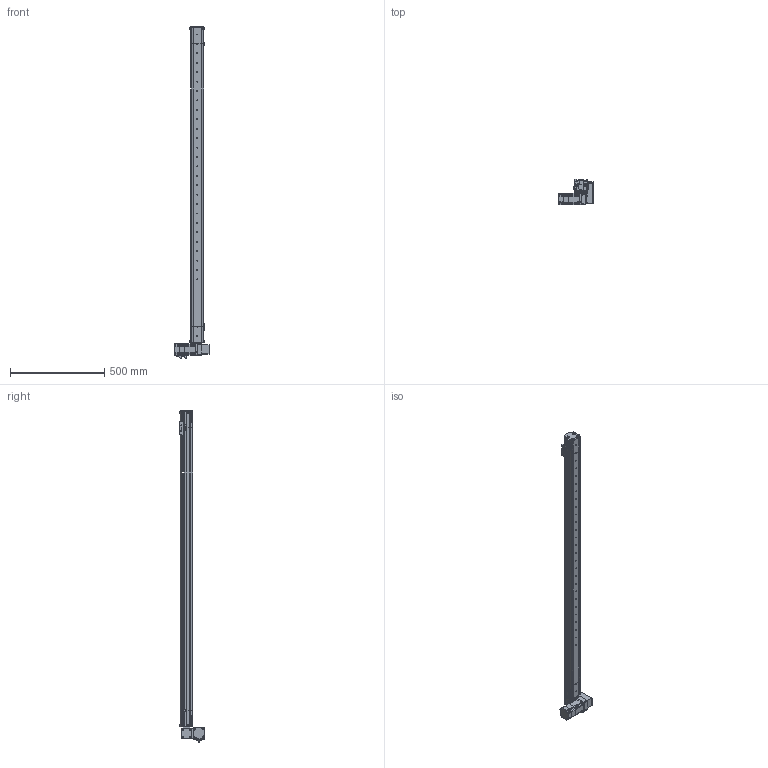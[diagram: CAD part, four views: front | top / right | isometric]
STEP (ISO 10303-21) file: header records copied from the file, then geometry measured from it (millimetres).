
FILE_DESCRIPTION (( 'STEP AP214' ), '1' );
FILE_NAME ('S07 TBN LU S1500.STEP', '2010-06-29T12:10:40', ( 'Conseil Régional Haute-Normandie' ), ( 'Conseil Régional Haute-Normandie' ), 'SwSTEP 2.0', 'SolidWorks 2010', '' );
FILE_SCHEMA (( 'AUTOMOTIVE_DESIGN' ));
Length unit declared in the file: millimetre
Products named in the file (41): Axe 60BLDC_Default; cache t皻e_Default; P3 90A_Default; P2 90A_Default; Plaque racord_Default; Couroie t皻e_Default; Pièce5^S07 LU(146); vis M5 L5_Default; P1_Default; GMB 60 90 310_Default; renvoi LU_Default; P4_Default; vis M5 L16_Default; Chariot; guide; CHariot_Default; couroie tail_Default; vis M5 L12_Default; Poulie_Default; T皻e de poulie_Default; couvercle tail TB; plaque de bout_Default; corp tail TB_Default; S07 TB tail (78)_Default; Vis M5 L16-2_Default; Cvis M5 L30_Default; VisM3_Default; Conecteur2 60BLDC_Default; Conecteur 60BLDC_Default; Course C L1500_Default; S07 TBN LU S1500; couvercle S07 course 1500 ; Couroie  course 1500_Default; Corp S07 course 1500_Default; plaque de bout LU_Default; corp moteur TB(146)_Default; S07 LU(146)_Default; Poulie head_Default; cache t皻e axe_Default; couvercle moteur S07 TB
Assembly tree (80 placements, depth 4):
  Pièce5^S07 LU(146)
  S07 TBN LU S1500
    S07 LU(146)_Default
      Cvis M5 L30_Default  x2
      Vis M5 L16-2_Default  x8
      vis M5 L12_Default  x6
      vis M5 L5_Default  x6
      plaque de bout LU_Default
      Couroie t皻e_Default
      cache t皻e_Default  x2
      cache t皻e axe_Default
      couvercle moteur S07 TB
      GMB 60 90 310_Default
        P4_Default
        VisM3_Default  x12
        P3 90A_Default
        P2 90A_Default
        Conecteur 60BLDC_Default
        Conecteur2 60BLDC_Default
        Axe 60BLDC_Default
        P1_Default
      corp moteur TB(146)_Default
      Plaque racord_Default
      Poulie head_Default
      renvoi LU_Default
    S07 TB tail (78)_Default
      corp tail TB_Default
      vis M5 L12_Default  x10
      Poulie_Default
        Poulie_Default
        T皻e de poulie_Default
      plaque de bout_Default
      couvercle tail TB
      couroie tail_Default
    CHariot_Default
      vis M5 L16_Default  x2
      Chariot
      guide
    Course C L1500_Default
      Couroie  course 1500_Default
      couvercle S07 course 1500 
      Corp S07 course 1500_Default
Bounding box: 190.2 x 134.7 x 1762 mm (x, y, z)
Volume: 3424074.9 mm3; surface area: 1499095.5 mm2
Topology: 102 solids, 102 shells, 3950 faces, 9834 edges, 6353 vertices
Faces by surface type: plane 2239, cylinder 781, bspline 677, cone 125, torus 124, sphere 4
Entity records: 168029 total; most frequent: CARTESIAN_POINT 75331, ORIENTED_EDGE 15580, DIRECTION 12459, EDGE_CURVE 7790, VERTEX_POINT 5141, LINE 5065, VECTOR 5065, AXIS2_PLACEMENT_3D 3697
